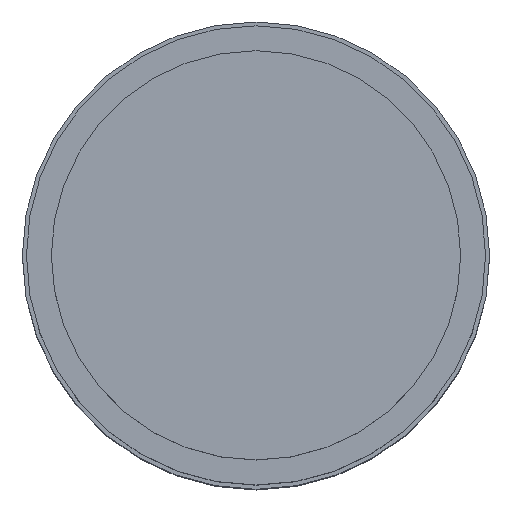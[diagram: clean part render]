
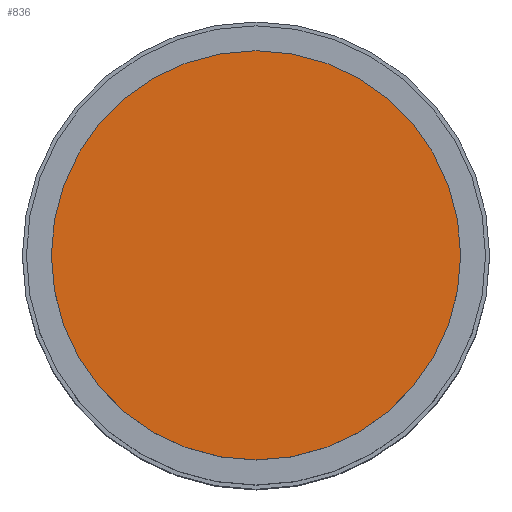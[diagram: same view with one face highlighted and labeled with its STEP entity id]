
A CAD part, top view. The second image highlights one B-rep face of the part: STEP entity #836.
In plain terms, the highlighted planar face has unit normal (0, 0, 1).
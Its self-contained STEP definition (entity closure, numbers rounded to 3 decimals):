
#84 = AXIS2_PLACEMENT_3D ( 'NONE', #636, #1655, #778 ) ;
#101 = DIRECTION ( 'NONE',  ( 1., 0., 0. ) ) ;
#229 = FACE_OUTER_BOUND ( 'NONE', #1619, .T. ) ;
#231 = PLANE ( 'NONE',  #1554 ) ;
#348 = DIRECTION ( 'NONE',  ( 0., 0., -1. ) ) ;
#375 = EDGE_CURVE ( 'NONE', #1551, #862, #581, .T. ) ;
#519 = AXIS2_PLACEMENT_3D ( 'NONE', #1231, #348, #1381 ) ;
#581 = CIRCLE ( 'NONE', #519, 12.7 ) ;
#636 = CARTESIAN_POINT ( 'NONE',  ( 0., 0., 4. ) ) ;
#729 = EDGE_CURVE ( 'NONE', #862, #1551, #1181, .T. ) ;
#751 = CARTESIAN_POINT ( 'NONE',  ( -12.7, 0., 4. ) ) ;
#778 = DIRECTION ( 'NONE',  ( -1., 0., 0. ) ) ;
#836 = ADVANCED_FACE ( 'NONE', ( #229 ), #231, .T. ) ;
#862 = VERTEX_POINT ( 'NONE', #1565 ) ;
#959 = DIRECTION ( 'NONE',  ( 0., 0., 1. ) ) ;
#1143 = ORIENTED_EDGE ( 'NONE', *, *, #375, .F. ) ;
#1181 = CIRCLE ( 'NONE', #84, 12.7 ) ;
#1231 = CARTESIAN_POINT ( 'NONE',  ( 0., 0., 4. ) ) ;
#1381 = DIRECTION ( 'NONE',  ( -1., 0., 0. ) ) ;
#1551 = VERTEX_POINT ( 'NONE', #751 ) ;
#1554 = AXIS2_PLACEMENT_3D ( 'NONE', #1560, #959, #101 ) ;
#1560 = CARTESIAN_POINT ( 'NONE',  ( 0., 12.7, 4. ) ) ;
#1565 = CARTESIAN_POINT ( 'NONE',  ( 12.7, 0., 4. ) ) ;
#1619 = EDGE_LOOP ( 'NONE', ( #1143, #1832 ) ) ;
#1655 = DIRECTION ( 'NONE',  ( 0., 0., -1. ) ) ;
#1832 = ORIENTED_EDGE ( 'NONE', *, *, #729, .F. ) ;
